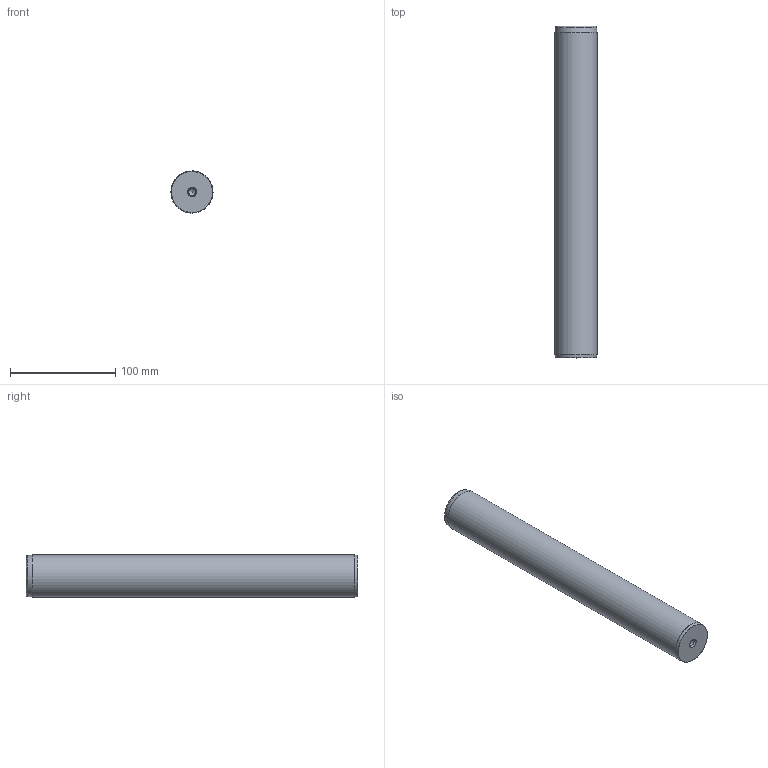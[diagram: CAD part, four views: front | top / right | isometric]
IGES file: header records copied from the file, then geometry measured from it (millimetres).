
Start section: Missler Software BP 521, 31674 Labege Cedex, France Tel   : +33 (0)5 61 00 03 00 Fax   : +33 (0)5 61 00 03 03 Email : sup.topsolid@topsolid.com
Global section: file name: D:\Cuma\D14-2\D14_40315.igs; native system: TopSolid v605250 Missler Software; preprocessor: IGES preprocessor v100000; date: 030120.194711; units: millimetre
Bounding box: 40 x 315 x 40 mm (x, y, z)
Surface area: 43034.6 mm2 (no closed solid volume)
Topology: 0 solids, 0 shells, 14 faces, 145 edges, 136 vertices
Faces by surface type: bspline 14
